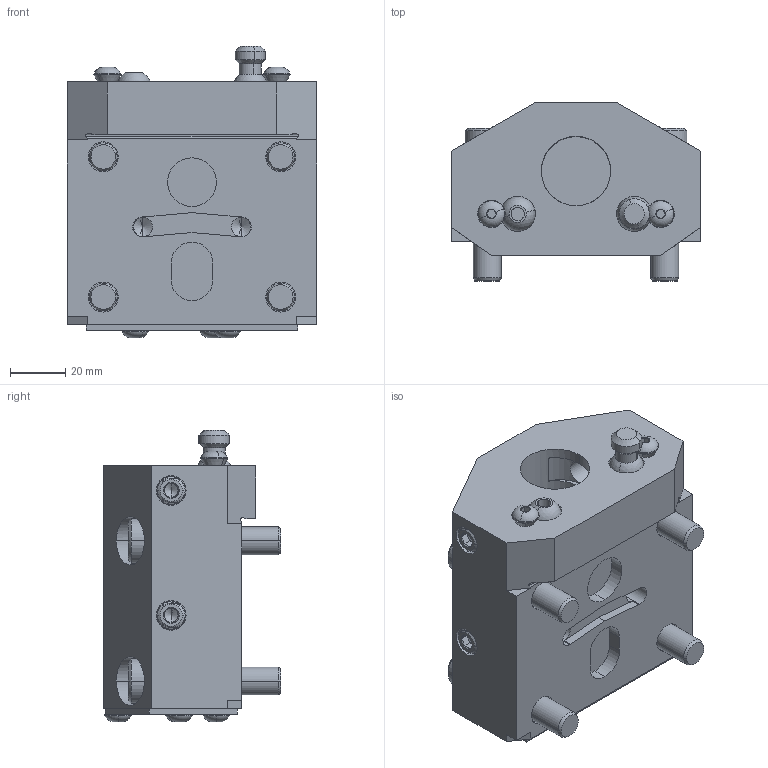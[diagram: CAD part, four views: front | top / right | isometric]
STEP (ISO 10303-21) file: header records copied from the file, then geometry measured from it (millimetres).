
FILE_DESCRIPTION (( 'STEP AP203' ), '1' );
FILE_NAME ('04-0794.STEP', '2022-07-12T16:12:43', ( '' ), ( '' ), 'SwSTEP 2.0', 'SolidWorks 2021', '' );
FILE_SCHEMA (( 'CONFIG_CONTROL_DESIGN' ));
Length unit declared in the file: inch
Products named in the file (12): 04-0794; 40-16583; 22-8749; 20-2077; 44-0001_44-0002; 20-10444; 25-4142; 58-1627; 20-3137; 10000011378; 40-0003_40-0003; 57-0026
Assembly tree (23 placements, depth 3):
  04-0794
    10000011378
      20-10444
      22-8749  x2
      25-4142
      58-1627
      57-0026  x2
      40-16583  x4
      40-0003_40-0003  x5
      44-0001_44-0002  x4
      20-3137
      20-2077
Bounding box: 90 x 64.06 x 105.11 mm (x, y, z)
Volume: 301038.5 mm3; surface area: 78414.7 mm2
Topology: 22 solids, 23 shells, 1226 faces, 2939 edges, 1761 vertices
Faces by surface type: cylinder 610, cone 357, plane 225, torus 18, bspline 10, sphere 6
Entity records: 18377 total; most frequent: CARTESIAN_POINT 6413, DIRECTION 2173, ORIENTED_EDGE 2166, EDGE_CURVE 1083, AXIS2_PLACEMENT_3D 845, VERTEX_POINT 669, EDGE_LOOP 514, VECTOR 483
